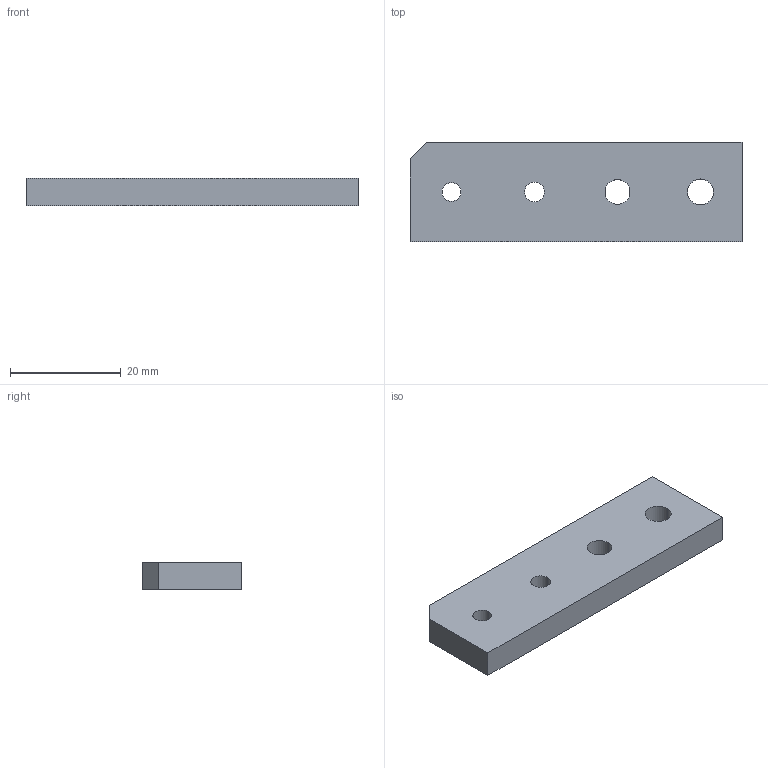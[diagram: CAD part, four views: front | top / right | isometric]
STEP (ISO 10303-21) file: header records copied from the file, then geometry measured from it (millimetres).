
FILE_DESCRIPTION (( 'STEP AP203' ), '1' );
FILE_NAME ('07_fastener_fit_coupon.step', '2026-10-15T09:23:48', ( '' ), ( '' ), 'SwSTEP 2.0', 'SolidWorks 2025', '' );
FILE_SCHEMA (( 'CONFIG_CONTROL_DESIGN' ));
Length unit declared in the file: millimetre
Products named in the file (1): 07_fastener_fit_coupon
Bounding box: 60 x 18 x 5 mm (x, y, z)
Volume: 5114.9 mm3; surface area: 3071.7 mm2
Topology: 1 solids, 1 shells, 15 faces, 39 edges, 26 vertices
Faces by surface type: cylinder 8, plane 7
Entity records: 562 total; most frequent: DIRECTION 87, CARTESIAN_POINT 81, ORIENTED_EDGE 78, EDGE_CURVE 39, AXIS2_PLACEMENT_3D 32, VERTEX_POINT 26, LINE 23, VECTOR 23
